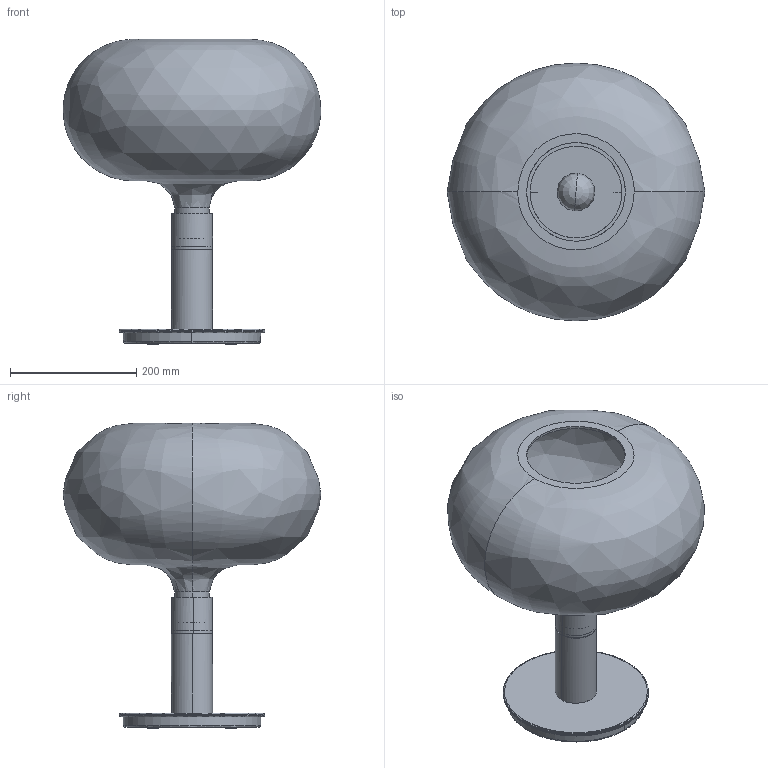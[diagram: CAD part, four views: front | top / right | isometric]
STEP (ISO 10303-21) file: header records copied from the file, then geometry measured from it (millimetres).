
FILE_DESCRIPTION(/* description */ (''),/* implementation_level */ '2;1');
FILE_NAME(/* name */ '3D_AM1N',/* time_stamp */ '2018-02-28T19:46:49+01:00',/* author */ (''),/* organization */ (''),/* preprocessor_version */ 'ST-DEVELOPER v15',/* originating_system */ '',/* authorisation */ '');
FILE_SCHEMA (('AUTOMOTIVE_DESIGN'));
Length unit declared in the file: millimetre
Products named in the file (5): Document; 744ALBEHW111MARTI_1-1^3D_AM1N; Group5^3D_AM1N; Group4^3D_AM1N; _U3-1^3D_AM1N
Assembly tree (4 placements, depth 2):
  Document
    744ALBEHW111MARTI_1-1^3D_AM1N
    Group5^3D_AM1N
    Group4^3D_AM1N
    _U3-1^3D_AM1N
Bounding box: 407.53 x 408 x 483 mm (x, y, z)
Volume: 931334.1 mm3; surface area: 720521.3 mm2
Topology: 9 solids, 10 shells, 197 faces, 419 edges, 257 vertices
Faces by surface type: bspline 138, plane 59
Entity records: 11164 total; most frequent: CARTESIAN_POINT 8395, ORIENTED_EDGE 824, EDGE_CURVE 413, VERTEX_POINT 257, EDGE_LOOP 233, ADVANCED_FACE 197, FACE_OUTER_BOUND 197, B_SPLINE_CURVE_WITH_KNOTS 184
